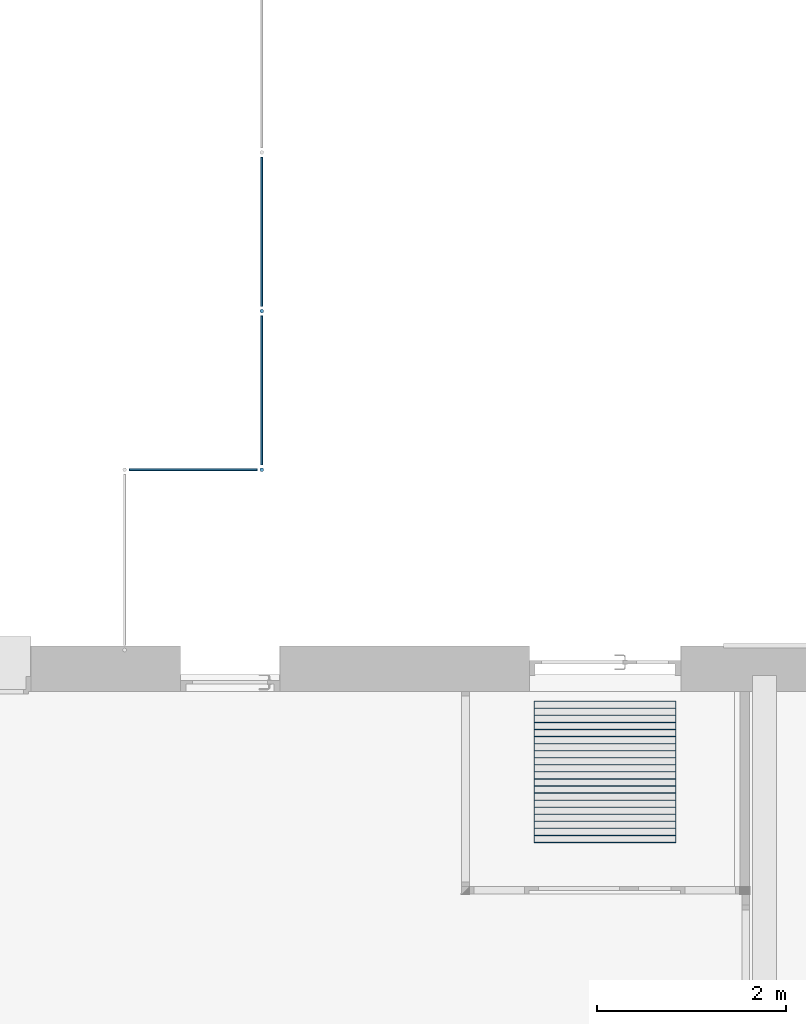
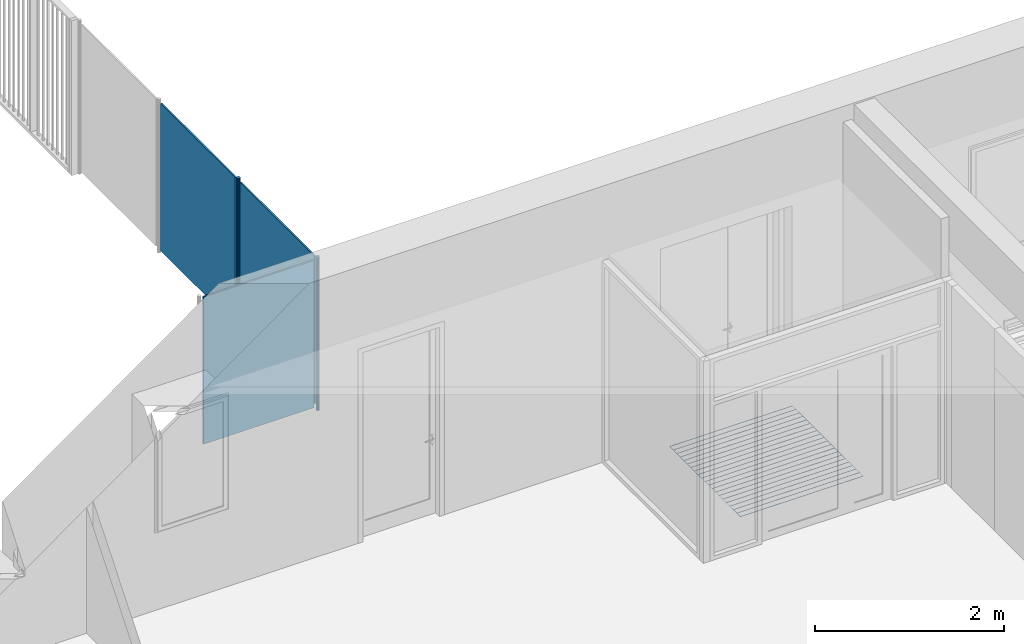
# One storey, part 61 of 91: 6 building element parts, 2 elements without a shape of their own.
"""IFC2X3 building model written with IfcOpenShell, lengths in metres."""

from ifc_helpers import new_model, entity, si_unit, converted_unit, derived_unit, money_unit, direction, frame, origin_with_axes, place, context, subcontext, project, spatial, faceted_brep, material, type_object, element, aggregate, save


model = new_model("IFC2X3")

# Units and contexts
model_context = context("Model", 3, precision=1e-05, world=origin_with_axes(), true_north=direction((0.0, 1.0)))
body_context = subcontext(model_context, "Body", "Model", "MODEL_VIEW")
ifc_project = project(units=[si_unit("LENGTHUNIT", "METRE"), si_unit("AREAUNIT", "SQUARE_METRE"), si_unit("VOLUMEUNIT", "CUBIC_METRE"), converted_unit("PLANEANGLEUNIT", "DEGREE", entity("IfcPlaneAngleMeasure", 0.0174532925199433), si_unit("PLANEANGLEUNIT", "RADIAN"), dimensions=[0, 0, 0, 0, 0, 0, 0]), money_unit("EUR"), converted_unit("TIMEUNIT", "Year", entity("IfcTimeMeasure", 31557600.0), si_unit("TIMEUNIT", "SECOND"), dimensions=[0, 0, 1, 0, 0, 0, 0]), si_unit("MASSUNIT", "GRAM", prefix="KILO"), si_unit("THERMODYNAMICTEMPERATUREUNIT", "DEGREE_CELSIUS"), si_unit("LUMINOUSINTENSITYUNIT", "LUMEN"), si_unit("ENERGYUNIT", "JOULE", prefix="MEGA"), derived_unit("THERMALCONDUCTANCEUNIT", [(si_unit("POWERUNIT", "WATT"), 1), (si_unit("LENGTHUNIT", "METRE"), -1), (si_unit("THERMODYNAMICTEMPERATUREUNIT", "KELVIN"), -1)]), derived_unit("SPECIFICHEATCAPACITYUNIT", [(si_unit("ENERGYUNIT", "JOULE"), 1), (si_unit("MASSUNIT", "GRAM", prefix="KILO"), -1), (si_unit("THERMODYNAMICTEMPERATUREUNIT", "KELVIN"), -1)]), derived_unit("MASSDENSITYUNIT", [(si_unit("MASSUNIT", "GRAM", prefix="KILO"), 1), (si_unit("VOLUMEUNIT", "CUBIC_METRE"), -1)])], contexts=[model_context])

# Site, building, storey
site_placement = place(None, origin_with_axes())
site = spatial("IfcSite", under=ifc_project, at=site_placement, Name="Site", CompositionType="ELEMENT")
building_placement = place(site_placement, origin_with_axes())
building = spatial("IfcBuilding", under=site, at=building_placement, Name="Bâtiment", CompositionType="ELEMENT")
storey_placement = place(building_placement, origin_with_axes())
storey = spatial("IfcBuildingStorey", under=building, at=storey_placement, Name="RDC", CompositionType="ELEMENT", Elevation=0.0)

# Proxy, building element part
building_element_proxy_type_1 = type_object("IfcBuildingElementProxyType", Name="TAPIS ENCASTRÉ", PredefinedType="NOTDEFINED")
proxy_1_placement = place(storey_placement, frame((51.90999999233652, -12.85756213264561, 0.0), z_axis=(0.0, 0.0, 1.0), x_axis=(1.0, 0.0, 0.0)))
proxy_1 = element("IfcBuildingElementProxy", 1, at=proxy_1_placement, inside=storey, type_object=building_element_proxy_type_1, Name="LAVABO")
ifc_material_1 = material(Name="Métal - Aluminium")
building_element_part_1_placement = place(proxy_1_placement, origin_with_axes())
building_element_part_1 = element("IfcBuildingElementPart", 2, at=building_element_part_1_placement, material=ifc_material_1, Name="Métal - Aluminium", context=body_context, shape_type="Brep", body=[
    faceted_brep([(0.003731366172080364, 1.425373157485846, 0.0), (0.003731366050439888, 1.417910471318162, 0.0), (0.003731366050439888, 1.417910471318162, 0.005), (0.003731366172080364, 1.425373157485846, 0.005), (1.496268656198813, 1.425373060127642, 0.0), (1.49626865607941, 1.417910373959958, 0.0), (1.49626865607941, 1.417910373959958, 0.005), (1.496268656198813, 1.425373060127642, 0.005)], [[[0, 1, 2, 3]], [[0, 4, 5, 1]], [[1, 5, 6, 2]], [[3, 2, 6, 7]], [[4, 0, 3, 7]], [[5, 4, 7, 6]]]),
    faceted_brep([(0.003731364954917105, 1.350746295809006, 0.0), (0.003731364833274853, 1.343283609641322, 0.0), (0.003731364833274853, 1.343283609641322, 0.005), (0.003731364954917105, 1.350746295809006, 0.005), (1.496268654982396, 1.350746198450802, 0.0), (1.496268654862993, 1.343283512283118, 0.0), (1.496268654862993, 1.343283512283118, 0.005), (1.496268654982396, 1.350746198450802, 0.005)], [[[0, 1, 2, 3]], [[0, 4, 5, 1]], [[1, 5, 6, 2]], [[3, 2, 6, 7]], [[4, 0, 3, 7]], [[5, 4, 7, 6]]]),
    faceted_brep([(0.003731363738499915, 1.276119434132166, 0.0), (0.003731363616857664, 1.268656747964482, 0.0), (0.003731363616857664, 1.268656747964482, 0.005), (0.003731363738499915, 1.276119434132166, 0.005), (1.496268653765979, 1.276119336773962, 0.0), (1.496268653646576, 1.268656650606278, 0.0), (1.496268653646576, 1.268656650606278, 0.005), (1.496268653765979, 1.276119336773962, 0.005)], [[[0, 1, 2, 3]], [[0, 4, 5, 1]], [[1, 5, 6, 2]], [[3, 2, 6, 7]], [[4, 0, 3, 7]], [[5, 4, 7, 6]]]),
    faceted_brep([(0.00373136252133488, 1.201492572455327, 0.0), (0.003731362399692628, 1.194029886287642, 0.0), (0.003731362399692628, 1.194029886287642, 0.005), (0.00373136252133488, 1.201492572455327, 0.005), (1.49626865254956, 1.201492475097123, 0.0), (1.496268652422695, 1.194029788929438, 0.0), (1.496268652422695, 1.194029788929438, 0.005), (1.49626865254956, 1.201492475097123, 0.005)], [[[0, 1, 2, 3]], [[0, 4, 5, 1]], [[1, 5, 6, 2]], [[3, 2, 6, 7]], [[4, 0, 3, 7]], [[5, 4, 7, 6]]]),
    faceted_brep([(0.003731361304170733, 1.126865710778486, 0.0), (0.003731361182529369, 1.119403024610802, 0.0), (0.003731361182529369, 1.119403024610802, 0.005), (0.003731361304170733, 1.126865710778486, 0.005), (1.496268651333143, 1.126865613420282, 0.0), (1.496268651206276, 1.119402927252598, 0.0), (1.496268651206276, 1.119402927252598, 0.005), (1.496268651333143, 1.126865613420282, 0.005)], [[[0, 1, 2, 3]], [[0, 4, 5, 1]], [[1, 5, 6, 2]], [[3, 2, 6, 7]], [[4, 0, 3, 7]], [[5, 4, 7, 6]]]),
    faceted_brep([(0.003731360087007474, 1.052238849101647, 0.0), (0.003731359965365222, 1.044776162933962, 0.0), (0.003731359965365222, 1.044776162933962, 0.005), (0.003731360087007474, 1.052238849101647, 0.005), (1.496268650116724, 1.052238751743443, 0.0), (1.496268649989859, 1.044776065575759, 0.0), (1.496268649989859, 1.044776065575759, 0.005), (1.496268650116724, 1.052238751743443, 0.005)], [[[0, 1, 2, 3]], [[0, 4, 5, 1]], [[1, 5, 6, 2]], [[3, 2, 6, 7]], [[4, 0, 3, 7]], [[5, 4, 7, 6]]]),
    faceted_brep([(0.003731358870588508, 0.9776119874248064, 0.0), (0.003731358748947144, 0.9701493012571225, 0.0), (0.003731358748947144, 0.9701493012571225, 0.005), (0.003731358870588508, 0.9776119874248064, 0.005), (1.496268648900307, 0.9776118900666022, 0.0), (1.49626864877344, 0.9701492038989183, 0.0), (1.49626864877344, 0.9701492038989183, 0.005), (1.496268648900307, 0.9776118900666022, 0.005)], [[[0, 1, 2, 3]], [[0, 4, 5, 1]], [[1, 5, 6, 2]], [[3, 2, 6, 7]], [[4, 0, 3, 7]], [[5, 4, 7, 6]]]),
    faceted_brep([(0.003731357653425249, 0.9029851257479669, 0.0), (0.003731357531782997, 0.895522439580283, 0.0), (0.003731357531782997, 0.895522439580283, 0.005), (0.003731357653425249, 0.9029851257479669, 0.005), (1.496268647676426, 0.9029850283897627, 0.0), (1.496268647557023, 0.8955223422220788, 0.0), (1.496268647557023, 0.8955223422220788, 0.005), (1.496268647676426, 0.9029850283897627, 0.005)], [[[0, 1, 2, 3]], [[0, 4, 5, 1]], [[1, 5, 6, 2]], [[3, 2, 6, 7]], [[4, 0, 3, 7]], [[5, 4, 7, 6]]]),
    faceted_brep([(0.003731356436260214, 0.8283582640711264, 0.0), (0.003731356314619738, 0.8208955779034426, 0.0), (0.003731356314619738, 0.8208955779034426, 0.005), (0.003731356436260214, 0.8283582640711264, 0.005), (1.496268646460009, 0.8283581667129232, 0.0), (1.496268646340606, 0.8208954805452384, 0.0), (1.496268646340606, 0.8208954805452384, 0.005), (1.496268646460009, 0.8283581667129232, 0.005)], [[[0, 1, 2, 3]], [[0, 4, 5, 1]], [[1, 5, 6, 2]], [[3, 2, 6, 7]], [[4, 0, 3, 7]], [[5, 4, 7, 6]]]),
    faceted_brep([(0.003731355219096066, 0.7537314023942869, 0.0), (0.003731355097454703, 0.7462687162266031, 0.0), (0.003731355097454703, 0.7462687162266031, 0.005), (0.003731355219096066, 0.7537314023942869, 0.005), (1.49626864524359, 0.7537313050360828, 0.0), (1.496268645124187, 0.7462686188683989, 0.0), (1.496268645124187, 0.7462686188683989, 0.005), (1.49626864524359, 0.7537313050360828, 0.005)], [[[0, 1, 2, 3]], [[0, 4, 5, 1]], [[1, 5, 6, 2]], [[3, 2, 6, 7]], [[4, 0, 3, 7]], [[5, 4, 7, 6]]]),
    faceted_brep([(0.003731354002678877, 0.6791045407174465, 0.0), (0.003731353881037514, 0.6716418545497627, 0.0), (0.003731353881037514, 0.6716418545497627, 0.005), (0.003731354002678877, 0.6791045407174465, 0.005), (1.496268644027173, 0.6791044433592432, 0.0), (1.496268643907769, 0.6716417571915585, 0.0), (1.496268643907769, 0.6716417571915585, 0.005), (1.496268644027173, 0.6791044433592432, 0.005)], [[[0, 1, 2, 3]], [[0, 4, 5, 1]], [[1, 5, 6, 2]], [[3, 2, 6, 7]], [[4, 0, 3, 7]], [[5, 4, 7, 6]]]),
    faceted_brep([(0.003731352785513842, 0.604477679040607, 0.0), (0.003731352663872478, 0.5970149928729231, 0.0), (0.003731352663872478, 0.5970149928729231, 0.005), (0.003731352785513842, 0.604477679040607, 0.005), (1.496268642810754, 0.6044775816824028, 0.0), (1.496268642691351, 0.597014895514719, 0.0), (1.496268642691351, 0.597014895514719, 0.005), (1.496268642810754, 0.6044775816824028, 0.005)], [[[0, 1, 2, 3]], [[0, 4, 5, 1]], [[1, 5, 6, 2]], [[3, 2, 6, 7]], [[4, 0, 3, 7]], [[5, 4, 7, 6]]]),
    faceted_brep([(0.003731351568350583, 0.5298508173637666, 0.0), (0.003731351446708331, 0.5223881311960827, 0.0), (0.003731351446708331, 0.5223881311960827, 0.005), (0.003731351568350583, 0.5298508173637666, 0.005), (1.496268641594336, 0.5298507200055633, 0.0), (1.496268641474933, 0.5223880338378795, 0.0), (1.496268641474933, 0.5223880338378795, 0.005), (1.496268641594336, 0.5298507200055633, 0.005)], [[[0, 1, 2, 3]], [[0, 4, 5, 1]], [[1, 5, 6, 2]], [[3, 2, 6, 7]], [[4, 0, 3, 7]], [[5, 4, 7, 6]]]),
    faceted_brep([(0.003731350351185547, 0.4552239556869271, 0.0), (0.003731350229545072, 0.4477612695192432, 0.0), (0.003731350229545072, 0.4477612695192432, 0.005), (0.003731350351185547, 0.4552239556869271, 0.005), (1.496268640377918, 0.4552238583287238, 0.0), (1.496268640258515, 0.4477611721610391, 0.0), (1.496268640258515, 0.4477611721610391, 0.005), (1.496268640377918, 0.4552238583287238, 0.005)], [[[0, 1, 2, 3]], [[0, 4, 5, 1]], [[1, 5, 6, 2]], [[3, 2, 6, 7]], [[4, 0, 3, 7]], [[5, 4, 7, 6]]]),
    faceted_brep([(0.003731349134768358, 0.3805970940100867, 0.0), (0.003731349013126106, 0.3731344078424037, 0.0), (0.003731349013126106, 0.3731344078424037, 0.005), (0.003731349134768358, 0.3805970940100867, 0.005), (1.4962686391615, 0.3805969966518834, 0.0), (1.496268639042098, 0.3731343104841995, 0.0), (1.496268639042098, 0.3731343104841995, 0.005), (1.4962686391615, 0.3805969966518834, 0.005)], [[[0, 1, 2, 3]], [[0, 4, 5, 1]], [[1, 5, 6, 2]], [[3, 2, 6, 7]], [[4, 0, 3, 7]], [[5, 4, 7, 6]]]),
    faceted_brep([(0.003731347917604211, 0.3059702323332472, 0.0), (0.003731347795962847, 0.2985075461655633, 0.0), (0.003731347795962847, 0.2985075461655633, 0.005), (0.003731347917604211, 0.3059702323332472, 0.005), (1.496268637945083, 0.3059701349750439, 0.0), (1.49626863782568, 0.2985074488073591, 0.0), (1.49626863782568, 0.2985074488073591, 0.005), (1.496268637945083, 0.3059701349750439, 0.005)], [[[0, 1, 2, 3]], [[0, 4, 5, 1]], [[1, 5, 6, 2]], [[3, 2, 6, 7]], [[4, 0, 3, 7]], [[5, 4, 7, 6]]]),
    faceted_brep([(0.003731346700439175, 0.2313433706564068, 0.0), (0.003731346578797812, 0.2238806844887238, 0.0), (0.003731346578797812, 0.2238806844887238, 0.005), (0.003731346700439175, 0.2313433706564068, 0.005), (1.496268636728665, 0.2313432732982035, 0.0), (1.496268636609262, 0.2238805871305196, 0.0), (1.496268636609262, 0.2238805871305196, 0.005), (1.496268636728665, 0.2313432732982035, 0.005)], [[[0, 1, 2, 3]], [[0, 4, 5, 1]], [[1, 5, 6, 2]], [[3, 2, 6, 7]], [[4, 0, 3, 7]], [[5, 4, 7, 6]]]),
    faceted_brep([(0.003731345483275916, 0.1567165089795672, 0.0), (0.003731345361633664, 0.1492538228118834, 0.0), (0.003731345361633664, 0.1492538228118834, 0.005), (0.003731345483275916, 0.1567165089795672, 0.005), (1.496268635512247, 0.156716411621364, 0.0), (1.496268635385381, 0.1492537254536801, 0.0), (1.496268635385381, 0.1492537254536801, 0.005), (1.496268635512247, 0.156716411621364, 0.005)], [[[0, 1, 2, 3]], [[0, 4, 5, 1]], [[1, 5, 6, 2]], [[3, 2, 6, 7]], [[4, 0, 3, 7]], [[5, 4, 7, 6]]]),
    faceted_brep([(0.003731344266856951, 0.08208964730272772, 0.0), (0.003731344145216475, 0.07462696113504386, 0.0), (0.003731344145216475, 0.07462696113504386, 0.005), (0.003731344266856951, 0.08208964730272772, 0.005), (1.496268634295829, 0.08208954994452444, 0.0), (1.496268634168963, 0.07462686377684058, 0.0), (1.496268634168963, 0.07462686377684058, 0.005), (1.496268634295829, 0.08208954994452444, 0.005)], [[[0, 1, 2, 3]], [[0, 4, 5, 1]], [[1, 5, 6, 2]], [[3, 2, 6, 7]], [[4, 0, 3, 7]], [[5, 4, 7, 6]]]),
    faceted_brep([(3.376567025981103e-08, 1.500000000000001, 0.0), (0.0, 8.923581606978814e-08, 0.0), (0.0, 8.923581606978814e-08, 0.005), (3.376567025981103e-08, 1.500000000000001, 0.005), (0.003731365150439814, 1.500000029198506, 0.0), (1.496268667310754, 1.499999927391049, 0.0), (1.499999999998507, 1.499999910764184, 0.0), (1.499999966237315, 0.0, 0.0), (1.49626863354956, 1.662686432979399e-08, 0.0), (0.003731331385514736, 1.184343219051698e-07, 0.0), (1.496268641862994, 0.007462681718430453, 0.0), (1.496268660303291, 1.492537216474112, 0.0), (0.003731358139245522, 1.492537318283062, 0.0), (0.003731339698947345, 0.00746278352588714, 0.0), (0.003731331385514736, 1.184343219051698e-07, 0.005), (1.49626863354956, 1.662686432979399e-08, 0.005), (1.499999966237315, 0.0, 0.005), (1.499999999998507, 1.499999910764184, 0.005), (1.496268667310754, 1.499999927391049, 0.005), (0.003731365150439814, 1.500000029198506, 0.005), (1.496268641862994, 0.007462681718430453, 0.005), (0.003731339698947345, 0.00746278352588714, 0.005), (0.003731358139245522, 1.492537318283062, 0.005), (1.496268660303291, 1.492537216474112, 0.005)], [[[0, 1, 2, 3]], [[0, 4, 5, 6, 7, 8, 9, 1], [10, 11, 12, 13]], [[1, 9, 14, 2]], [[3, 2, 14, 15, 16, 17, 18, 19], [20, 21, 22, 23]], [[4, 0, 3, 19]], [[5, 4, 19, 18]], [[6, 5, 18, 17]], [[7, 6, 17, 16]], [[8, 7, 16, 15]], [[9, 8, 15, 14]], [[11, 10, 20, 23]], [[12, 11, 23, 22]], [[13, 12, 22, 21]], [[10, 13, 21, 20]]]),
])
aggregate(proxy_1, [building_element_part_1])

# Proxy, building element parts
building_element_proxy_type_2 = type_object("IfcBuildingElementProxyType", Name="Type de garde-corps", PredefinedType="NOTDEFINED")
proxy_2_placement = place(storey_placement, frame((49.08370675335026, -3.835963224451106, 0.0), z_axis=(0.0, 0.0, 1.0), x_axis=(1.0, 0.0, 0.0)))
proxy_2 = element("IfcBuildingElementProxy", 3, at=proxy_2_placement, inside=storey, type_object=building_element_proxy_type_2, Name="RAMPE-003")
ifc_material_2 = material(Name="Métal - Zinc")
building_element_part_2_placement = place(proxy_2_placement, origin_with_axes())
building_element_part_2 = element("IfcBuildingElementPart", 4, at=building_element_part_2_placement, material=ifc_material_2, Name="Métal - Zinc", context=body_context, shape_type="Brep", body=[
    faceted_brep([(-0.04999999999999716, -5.059110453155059, 0.0), (-0.05347296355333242, -5.059414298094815, 0.0), (-0.05347296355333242, -5.059414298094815, 1.98), (-0.04999999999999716, -5.059110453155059, 1.98), (-0.0465270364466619, -5.059414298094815, 0.0), (-0.0431595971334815, -5.060316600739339, 0.0), (-0.03999999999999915, -5.06178994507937, 0.0), (-0.03714424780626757, -5.063789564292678, 0.0), (-0.03467911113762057, -5.066254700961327, 0.0), (-0.03267949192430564, -5.069110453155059, 0.0), (-0.0312061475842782, -5.072270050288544, 0.0), (-0.03030384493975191, -5.07563748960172, 0.0), (-0.02999999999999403, -5.079110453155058, 0.0), (-0.03030384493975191, -5.082583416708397, 0.0), (-0.0312061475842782, -5.085950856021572, 0.0), (-0.03267949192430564, -5.089110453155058, 0.0), (-0.03467911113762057, -5.09196620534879, 0.0), (-0.03714424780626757, -5.094431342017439, 0.0), (-0.03999999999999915, -5.096430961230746, 0.0), (-0.0431595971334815, -5.097904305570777, 0.0), (-0.0465270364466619, -5.098806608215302, 0.0), (-0.04999999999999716, -5.099110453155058, 0.0), (-0.05347296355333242, -5.098806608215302, 0.0), (-0.05684040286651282, -5.097904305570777, 0.0), (-0.05999999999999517, -5.096430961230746, 0.0), (-0.06285575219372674, -5.094431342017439, 0.0), (-0.06532088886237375, -5.09196620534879, 0.0), (-0.06732050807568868, -5.089110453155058, 0.0), (-0.06879385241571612, -5.085950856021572, 0.0), (-0.0696961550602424, -5.082583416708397, 0.0), (-0.07000000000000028, -5.079110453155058, 0.0), (-0.0696961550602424, -5.07563748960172, 0.0), (-0.06879385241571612, -5.072270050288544, 0.0), (-0.06732050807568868, -5.069110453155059, 0.0), (-0.06532088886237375, -5.066254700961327, 0.0), (-0.06285575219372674, -5.063789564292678, 0.0), (-0.05999999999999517, -5.06178994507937, 0.0), (-0.05684040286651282, -5.060316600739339, 0.0), (-0.05684040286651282, -5.060316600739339, 1.98), (-0.05999999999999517, -5.06178994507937, 1.98), (-0.06285575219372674, -5.063789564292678, 1.98), (-0.06532088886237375, -5.066254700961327, 1.98), (-0.06732050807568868, -5.069110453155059, 1.98), (-0.06879385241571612, -5.072270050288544, 1.98), (-0.0696961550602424, -5.07563748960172, 1.98), (-0.07000000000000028, -5.079110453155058, 1.98), (-0.0696961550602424, -5.082583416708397, 1.98), (-0.06879385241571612, -5.085950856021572, 1.98), (-0.06732050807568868, -5.089110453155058, 1.98), (-0.06532088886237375, -5.09196620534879, 1.98), (-0.06285575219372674, -5.094431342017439, 1.98), (-0.05999999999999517, -5.096430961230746, 1.98), (-0.05684040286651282, -5.097904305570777, 1.98), (-0.05347296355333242, -5.098806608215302, 1.98), (-0.04999999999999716, -5.099110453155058, 1.98), (-0.0465270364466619, -5.098806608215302, 1.98), (-0.0431595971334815, -5.097904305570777, 1.98), (-0.03999999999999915, -5.096430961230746, 1.98), (-0.03714424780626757, -5.094431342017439, 1.98), (-0.03467911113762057, -5.09196620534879, 1.98), (-0.03267949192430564, -5.089110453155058, 1.98), (-0.0312061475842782, -5.085950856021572, 1.98), (-0.03030384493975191, -5.082583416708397, 1.98), (-0.02999999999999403, -5.079110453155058, 1.98), (-0.03030384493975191, -5.07563748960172, 1.98), (-0.0312061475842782, -5.072270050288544, 1.98), (-0.03267949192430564, -5.069110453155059, 1.98), (-0.03467911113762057, -5.066254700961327, 1.98), (-0.03714424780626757, -5.063789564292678, 1.98), (-0.03999999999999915, -5.06178994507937, 1.98), (-0.0431595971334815, -5.060316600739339, 1.98), (-0.0465270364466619, -5.059414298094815, 1.98)], [[[0, 1, 2, 3]], [[0, 4, 5, 6, 7, 8, 9, 10, 11, 12, 13, 14, 15, 16, 17, 18, 19, 20, 21, 22, 23, 24, 25, 26, 27, 28, 29, 30, 31, 32, 33, 34, 35, 36, 37, 1]], [[1, 37, 38, 2]], [[3, 2, 38, 39, 40, 41, 42, 43, 44, 45, 46, 47, 48, 49, 50, 51, 52, 53, 54, 55, 56, 57, 58, 59, 60, 61, 62, 63, 64, 65, 66, 67, 68, 69, 70, 71]], [[4, 0, 3, 71]], [[5, 4, 71, 70]], [[6, 5, 70, 69]], [[7, 6, 69, 68]], [[8, 7, 68, 67]], [[9, 8, 67, 66]], [[10, 9, 66, 65]], [[11, 10, 65, 64]], [[12, 11, 64, 63]], [[13, 12, 63, 62]], [[14, 13, 62, 61]], [[15, 14, 61, 60]], [[16, 15, 60, 59]], [[17, 16, 59, 58]], [[18, 17, 58, 57]], [[19, 18, 57, 56]], [[20, 19, 56, 55]], [[21, 20, 55, 54]], [[22, 21, 54, 53]], [[23, 22, 53, 52]], [[24, 23, 52, 51]], [[25, 24, 51, 50]], [[26, 25, 50, 49]], [[27, 26, 49, 48]], [[28, 27, 48, 47]], [[29, 28, 47, 46]], [[30, 29, 46, 45]], [[31, 30, 45, 44]], [[32, 31, 44, 43]], [[33, 32, 43, 42]], [[34, 33, 42, 41]], [[35, 34, 41, 40]], [[36, 35, 40, 39]], [[37, 36, 39, 38]]]),
])
ifc_material_3 = material(Name="*MAILLE jacob")
building_element_part_3_placement = place(proxy_2_placement, origin_with_axes())
building_element_part_3 = element("IfcBuildingElementPart", 5, at=building_element_part_3_placement, material=ifc_material_3, Name="*MAILLE jacob", context=body_context, shape_type="Brep", body=[
    faceted_brep([(-0.03999999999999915, -3.352740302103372, 0.05), (-0.03999999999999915, -1.776370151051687, 0.05), (-0.03999999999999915, -1.776370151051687, 1.95), (-0.03999999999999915, -3.352740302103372, 1.95), (-0.05999999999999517, -1.776370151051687, 0.05), (-0.05999999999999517, -3.352740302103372, 0.05), (-0.05999999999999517, -1.776370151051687, 1.95), (-0.05999999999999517, -3.352740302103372, 1.95)], [[[0, 1, 2, 3]], [[4, 1, 0, 5]], [[6, 2, 1, 4]], [[3, 2, 6, 7]], [[0, 3, 7, 5]], [[6, 4, 5, 7]]]),
])
building_element_part_4_placement = place(proxy_2_placement, origin_with_axes())
building_element_part_4 = element("IfcBuildingElementPart", 6, at=building_element_part_4_placement, material=ifc_material_1, Name="Métal - Aluminium", context=body_context, shape_type="Brep", body=[
    faceted_brep([(-0.04999999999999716, -3.382740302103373, 0.0), (-0.05347296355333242, -3.383044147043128, 0.0), (-0.05347296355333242, -3.383044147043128, 1.98), (-0.04999999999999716, -3.382740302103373, 1.98), (-0.0465270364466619, -3.383044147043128, 0.0), (-0.0431595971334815, -3.383946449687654, 0.0), (-0.03999999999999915, -3.385419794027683, 0.0), (-0.03714424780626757, -3.387419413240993, 0.0), (-0.03467911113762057, -3.389884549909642, 0.0), (-0.03267949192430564, -3.392740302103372, 0.0), (-0.0312061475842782, -3.395899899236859, 0.0), (-0.03030384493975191, -3.399267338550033, 0.0), (-0.02999999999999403, -3.402740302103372, 0.0), (-0.03030384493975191, -3.406213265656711, 0.0), (-0.0312061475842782, -3.409580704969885, 0.0), (-0.03267949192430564, -3.412740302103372, 0.0), (-0.03467911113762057, -3.415596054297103, 0.0), (-0.03714424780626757, -3.418061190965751, 0.0), (-0.03999999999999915, -3.420060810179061, 0.0), (-0.0431595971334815, -3.42153415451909, 0.0), (-0.0465270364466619, -3.422436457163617, 0.0), (-0.04999999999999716, -3.422740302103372, 0.0), (-0.05347296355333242, -3.422436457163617, 0.0), (-0.05684040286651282, -3.42153415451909, 0.0), (-0.05999999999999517, -3.420060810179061, 0.0), (-0.06285575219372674, -3.418061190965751, 0.0), (-0.06532088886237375, -3.415596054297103, 0.0), (-0.06732050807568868, -3.412740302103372, 0.0), (-0.06879385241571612, -3.409580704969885, 0.0), (-0.0696961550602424, -3.406213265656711, 0.0), (-0.07000000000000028, -3.402740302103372, 0.0), (-0.0696961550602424, -3.399267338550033, 0.0), (-0.06879385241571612, -3.395899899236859, 0.0), (-0.06732050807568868, -3.392740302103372, 0.0), (-0.06532088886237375, -3.389884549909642, 0.0), (-0.06285575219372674, -3.387419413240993, 0.0), (-0.05999999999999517, -3.385419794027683, 0.0), (-0.05684040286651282, -3.383946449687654, 0.0), (-0.05684040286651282, -3.383946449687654, 1.98), (-0.05999999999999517, -3.385419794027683, 1.98), (-0.06285575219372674, -3.387419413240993, 1.98), (-0.06532088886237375, -3.389884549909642, 1.98), (-0.06732050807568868, -3.392740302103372, 1.98), (-0.06879385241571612, -3.395899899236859, 1.98), (-0.0696961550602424, -3.399267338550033, 1.98), (-0.07000000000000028, -3.402740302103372, 1.98), (-0.0696961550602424, -3.406213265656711, 1.98), (-0.06879385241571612, -3.409580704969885, 1.98), (-0.06732050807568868, -3.412740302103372, 1.98), (-0.06532088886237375, -3.415596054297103, 1.98), (-0.06285575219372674, -3.418061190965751, 1.98), (-0.05999999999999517, -3.420060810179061, 1.98), (-0.05684040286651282, -3.42153415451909, 1.98), (-0.05347296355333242, -3.422436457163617, 1.98), (-0.04999999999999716, -3.422740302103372, 1.98), (-0.0465270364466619, -3.422436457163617, 1.98), (-0.0431595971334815, -3.42153415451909, 1.98), (-0.03999999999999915, -3.420060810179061, 1.98), (-0.03714424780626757, -3.418061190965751, 1.98), (-0.03467911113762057, -3.415596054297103, 1.98), (-0.03267949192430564, -3.412740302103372, 1.98), (-0.0312061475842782, -3.409580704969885, 1.98), (-0.03030384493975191, -3.406213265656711, 1.98), (-0.02999999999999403, -3.402740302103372, 1.98), (-0.03030384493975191, -3.399267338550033, 1.98), (-0.0312061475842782, -3.395899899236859, 1.98), (-0.03267949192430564, -3.392740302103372, 1.98), (-0.03467911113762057, -3.389884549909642, 1.98), (-0.03714424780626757, -3.387419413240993, 1.98), (-0.03999999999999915, -3.385419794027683, 1.98), (-0.0431595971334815, -3.383946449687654, 1.98), (-0.0465270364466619, -3.383044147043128, 1.98)], [[[0, 1, 2, 3]], [[0, 4, 5, 6, 7, 8, 9, 10, 11, 12, 13, 14, 15, 16, 17, 18, 19, 20, 21, 22, 23, 24, 25, 26, 27, 28, 29, 30, 31, 32, 33, 34, 35, 36, 37, 1]], [[1, 37, 38, 2]], [[3, 2, 38, 39, 40, 41, 42, 43, 44, 45, 46, 47, 48, 49, 50, 51, 52, 53, 54, 55, 56, 57, 58, 59, 60, 61, 62, 63, 64, 65, 66, 67, 68, 69, 70, 71]], [[4, 0, 3, 71]], [[5, 4, 71, 70]], [[6, 5, 70, 69]], [[7, 6, 69, 68]], [[8, 7, 68, 67]], [[9, 8, 67, 66]], [[10, 9, 66, 65]], [[11, 10, 65, 64]], [[12, 11, 64, 63]], [[13, 12, 63, 62]], [[14, 13, 62, 61]], [[15, 14, 61, 60]], [[16, 15, 60, 59]], [[17, 16, 59, 58]], [[18, 17, 58, 57]], [[19, 18, 57, 56]], [[20, 19, 56, 55]], [[21, 20, 55, 54]], [[22, 21, 54, 53]], [[23, 22, 53, 52]], [[24, 23, 52, 51]], [[25, 24, 51, 50]], [[26, 25, 50, 49]], [[27, 26, 49, 48]], [[28, 27, 48, 47]], [[29, 28, 47, 46]], [[30, 29, 46, 45]], [[31, 30, 45, 44]], [[32, 31, 44, 43]], [[33, 32, 43, 42]], [[34, 33, 42, 41]], [[35, 34, 41, 40]], [[36, 35, 40, 39]], [[37, 36, 39, 38]]]),
])
building_element_part_5_placement = place(proxy_2_placement, origin_with_axes())
building_element_part_5 = element("IfcBuildingElementPart", 7, at=building_element_part_5_placement, material=ifc_material_3, Name="*MAILLE jacob", context=body_context, shape_type="Brep", body=[
    faceted_brep([(-0.03999999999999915, -5.029110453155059, 0.05), (-0.03999999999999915, -3.452740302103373, 0.05), (-0.03999999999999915, -3.452740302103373, 1.95), (-0.03999999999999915, -5.029110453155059, 1.95), (-0.05999999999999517, -3.452740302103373, 0.05), (-0.05999999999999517, -5.029110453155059, 0.05), (-0.05999999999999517, -3.452740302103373, 1.95), (-0.05999999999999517, -5.029110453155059, 1.95)], [[[0, 1, 2, 3]], [[4, 1, 0, 5]], [[6, 2, 1, 4]], [[3, 2, 6, 7]], [[0, 3, 7, 5]], [[6, 4, 5, 7]]]),
])
building_element_part_6_placement = place(proxy_2_placement, origin_with_axes())
building_element_part_6 = element("IfcBuildingElementPart", 8, at=building_element_part_6_placement, material=ifc_material_3, Name="*MAILLE jacob", context=body_context, shape_type="Brep", body=[
    faceted_brep([(-1.44999999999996, -5.089110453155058, 0.05), (-0.09999999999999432, -5.089110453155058, 0.05), (-0.09999999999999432, -5.089110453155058, 1.95), (-1.44999999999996, -5.089110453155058, 1.95), (-0.09999999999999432, -5.069110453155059, 0.05), (-1.44999999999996, -5.069110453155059, 0.05), (-0.09999999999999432, -5.069110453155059, 1.95), (-1.44999999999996, -5.069110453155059, 1.95)], [[[0, 1, 2, 3]], [[4, 1, 0, 5]], [[6, 2, 1, 4]], [[3, 2, 6, 7]], [[0, 3, 7, 5]], [[6, 4, 5, 7]]]),
])
aggregate(proxy_2, [building_element_part_2, building_element_part_3, building_element_part_4, building_element_part_5, building_element_part_6])

save(model, "model.ifc")
